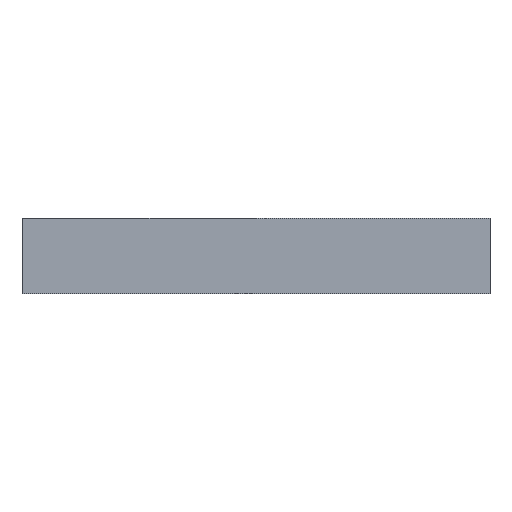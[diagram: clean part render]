
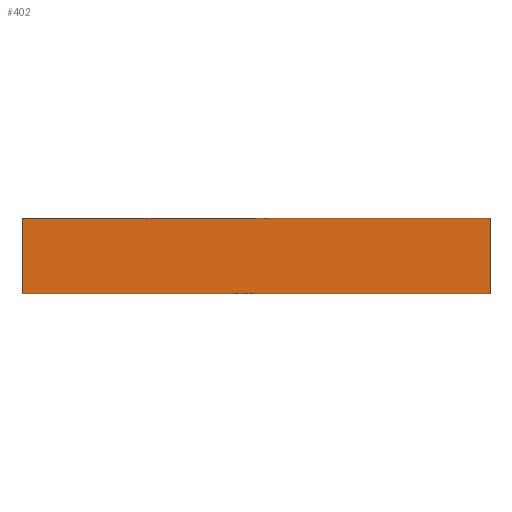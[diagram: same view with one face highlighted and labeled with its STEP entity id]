
A CAD part, front view. The second image highlights one B-rep face of the part: STEP entity #402.
In plain terms, the highlighted planar face has unit normal (0, -1, 0).
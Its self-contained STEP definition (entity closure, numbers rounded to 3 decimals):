
#1 = EDGE_CURVE ( 'NONE', #685, #670, #268, .T. ) ;
#28 = EDGE_CURVE ( 'NONE', #670, #645, #223, .T. ) ;
#33 = EDGE_CURVE ( 'NONE', #708, #645, #219, .T. ) ;
#62 = EDGE_CURVE ( 'NONE', #685, #708, #181, .T. ) ;
#69 = AXIS2_PLACEMENT_3D ( 'NONE', #523, #517, #516 ) ;
#137 = FACE_OUTER_BOUND ( 'NONE', #278, .T. ) ;
#180 = VECTOR ( 'NONE', #615, 1000. ) ;
#181 = LINE ( 'NONE', #617, #180 ) ;
#218 = VECTOR ( 'NONE', #673, 1000. ) ;
#219 = LINE ( 'NONE', #674, #218 ) ;
#222 = VECTOR ( 'NONE', #679, 1000. ) ;
#223 = LINE ( 'NONE', #680, #222 ) ;
#267 = VECTOR ( 'NONE', #585, 1000. ) ;
#268 = LINE ( 'NONE', #710, #267 ) ;
#278 = EDGE_LOOP ( 'NONE', ( #341, #342, #343, #344 ) ) ;
#341 = ORIENTED_EDGE ( 'NONE', *, *, #28, .T. ) ;
#342 = ORIENTED_EDGE ( 'NONE', *, *, #33, .F. ) ;
#343 = ORIENTED_EDGE ( 'NONE', *, *, #62, .F. ) ;
#344 = ORIENTED_EDGE ( 'NONE', *, *, #1, .T. ) ;
#402 = ADVANCED_FACE ( 'NONE', ( #137 ), #524, .F. ) ;
#438 = CARTESIAN_POINT ( 'NONE',  ( 201., 0., 65. ) ) ;
#446 = CARTESIAN_POINT ( 'NONE',  ( -201., 0., 65. ) ) ;
#451 = CARTESIAN_POINT ( 'NONE',  ( -201., 0., 0. ) ) ;
#459 = CARTESIAN_POINT ( 'NONE',  ( 201., 0., 0. ) ) ;
#516 = DIRECTION ( 'NONE',  ( -1., 0., 0. ) ) ;
#517 = DIRECTION ( 'NONE',  ( 0., 1., 0. ) ) ;
#523 = CARTESIAN_POINT ( 'NONE',  ( -201., 0., 65. ) ) ;
#524 = PLANE ( 'NONE',  #69 ) ;
#585 = DIRECTION ( 'NONE',  ( 0., 0., -1. ) ) ;
#615 = DIRECTION ( 'NONE',  ( 1., 0., 0. ) ) ;
#617 = CARTESIAN_POINT ( 'NONE',  ( -201., 0., 65. ) ) ;
#645 = VERTEX_POINT ( 'NONE', #459 ) ;
#670 = VERTEX_POINT ( 'NONE', #451 ) ;
#673 = DIRECTION ( 'NONE',  ( 0., 0., -1. ) ) ;
#674 = CARTESIAN_POINT ( 'NONE',  ( 201., 0., 65. ) ) ;
#679 = DIRECTION ( 'NONE',  ( 1., 0., 0. ) ) ;
#680 = CARTESIAN_POINT ( 'NONE',  ( -201., 0., 0. ) ) ;
#685 = VERTEX_POINT ( 'NONE', #446 ) ;
#708 = VERTEX_POINT ( 'NONE', #438 ) ;
#710 = CARTESIAN_POINT ( 'NONE',  ( -201., 0., 65. ) ) ;
